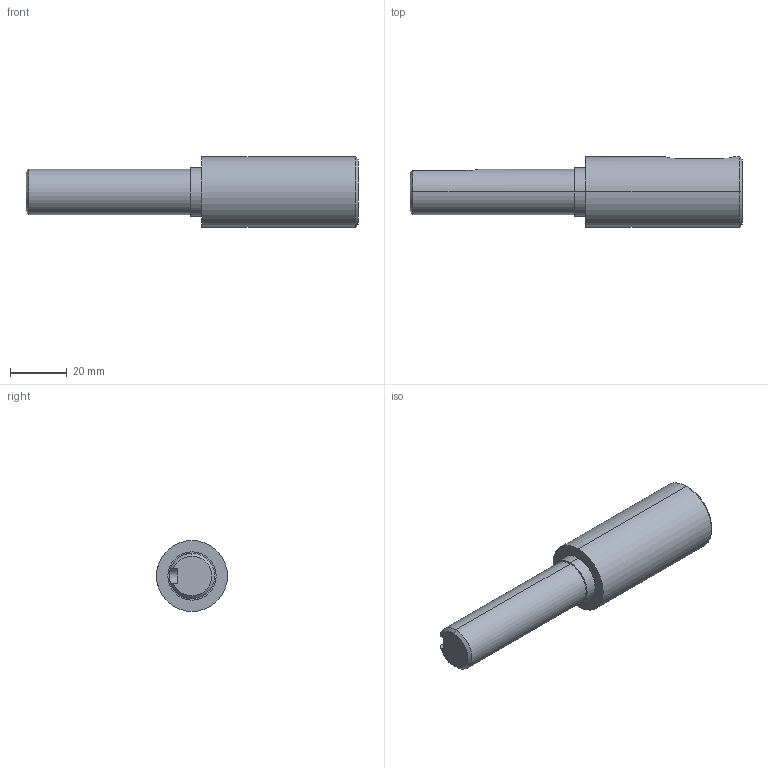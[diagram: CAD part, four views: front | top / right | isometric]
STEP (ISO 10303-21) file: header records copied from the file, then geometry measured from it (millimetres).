
FILE_DESCRIPTION (( 'STEP AP203' ), '1' );
FILE_NAME ('084.813.001.STEP', '2013-01-29T13:19:07', ( 'Alusic' ), ( 'Alusic' ), 'SwSTEP 2.0', 'SolidWorks 2011', '' );
FILE_SCHEMA (( 'CONFIG_CONTROL_DESIGN' ));
Length unit declared in the file: millimetre
Products named in the file (1): 084.813.001
Bounding box: 117 x 25 x 25 mm (x, y, z)
Volume: 38463.6 mm3; surface area: 8674.7 mm2
Topology: 1 solids, 1 shells, 24 faces, 53 edges, 34 vertices
Faces by surface type: plane 10, cylinder 9, cone 5
Entity records: 836 total; most frequent: CARTESIAN_POINT 215, DIRECTION 119, ORIENTED_EDGE 106, EDGE_CURVE 53, AXIS2_PLACEMENT_3D 46, VERTEX_POINT 34, EDGE_LOOP 27, VECTOR 27
